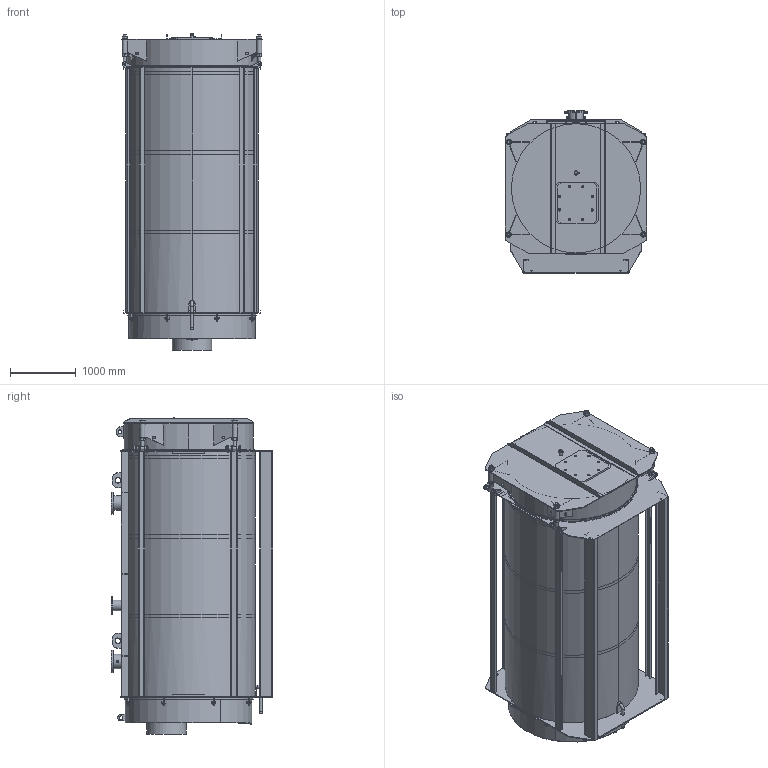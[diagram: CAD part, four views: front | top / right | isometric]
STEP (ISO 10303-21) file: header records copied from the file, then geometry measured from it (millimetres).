
FILE_DESCRIPTION(('STEP AP203'), '1');
FILE_NAME('Êîòåë 4000 êÂò', '', ('UNSPECIFIED'), ('UNSPECIFIED'), 'ASCON STEP Converter 1.6', 'ASCON Math Kernel', '');
FILE_SCHEMA(('CONFIG_CONTROL_DESIGN'));
Length unit declared in the file: millimetre
Bounding box: 2150 x 2451 x 4796.03 mm (x, y, z)
Volume: 350465678.6 mm3; surface area: 103716240.3 mm2
Topology: 35 solids, 35 shells, 1886 faces, 4572 edges, 2883 vertices
Faces by surface type: plane 1182, cylinder 492, cone 185, torus 19, bspline 8
Full cylindrical faces by diameter (mm): 4 x4, 4.1 x4, 4.8 x1, 6 x15, 7.6 x1, 8 x2, 9.728 x1, 10 x3, 12 x4, 13.835 x8, 14.5 x1, 15 x1, 15.7 x1, 16 x17, 17 x20, 18.632 x2, 20 x3, 20.955 x3, 21.3 x1, 22 x32, 26.8 x2, 27 x2, 28 x1, 30 x8, 30.8 x4, 31 x4, 36.6 x1, 38 x1, 40 x9, 41 x2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
Entity records: 89550 total; most frequent: CARTESIAN_POINT 31493, DIRECTION 8597, ORIENTED_EDGE 8240, EDGE_CURVE 4120, AXIS2_PLACEMENT_3D 3155, VERTEX_POINT 2882, EDGE_LOOP 2729, LINE 2287
